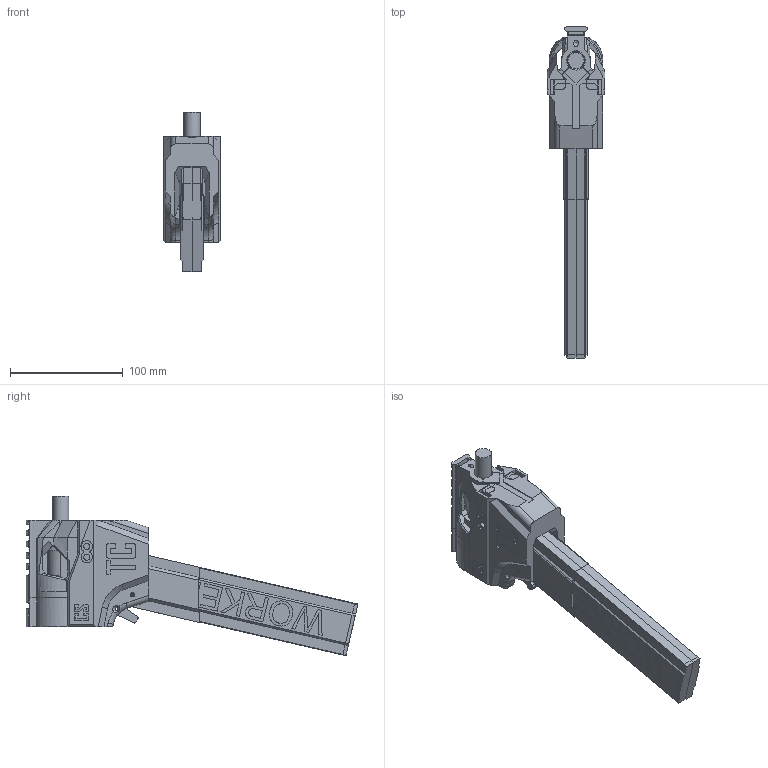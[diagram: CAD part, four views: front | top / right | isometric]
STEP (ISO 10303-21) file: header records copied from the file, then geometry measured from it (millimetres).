
FILE_DESCRIPTION(/* description */ ('Alibre Inc.'),/* implementation_level */ '2;1');
FILE_NAME(/* name */ 'export-66F32D69-EA25-4CD9-8FBE-4C7F73BD70D0',/* time_stamp */ '2021-12-05T11:45:15-05:00',/* author */ (''),/* organization */ (''),/* preprocessor_version */ 'ST-DEVELOPER v17',/* originating_system */ 'Alibre',/* authorisation */ '');
FILE_SCHEMA (('AUTOMOTIVE_DESIGN'));
Length unit declared in the file: millimetre
Bounding box: 50.8 x 293.84 x 141.17 mm (x, y, z)
Volume: 472023.9 mm3; surface area: 155363.1 mm2
Topology: 5 solids, 5 shells, 1131 faces, 3272 edges, 2165 vertices
Faces by surface type: plane 771, bspline 201, cylinder 130, cone 27, torus 2
Full cylindrical faces by diameter (mm): 2.413 x3, 2.667 x2, 5.334 x9, 10.16 x1, 14.287 x2
Entity records: 42126 total; most frequent: CARTESIAN_POINT 15305, ORIENTED_EDGE 6460, DIRECTION 3848, EDGE_CURVE 3230, VECTOR 2204, LINE 2204, VERTEX_POINT 2149, EDGE_LOOP 1209
